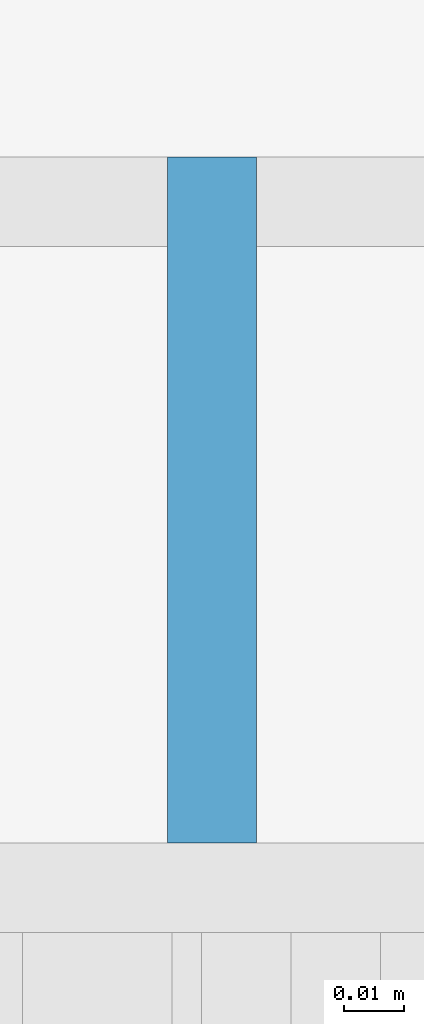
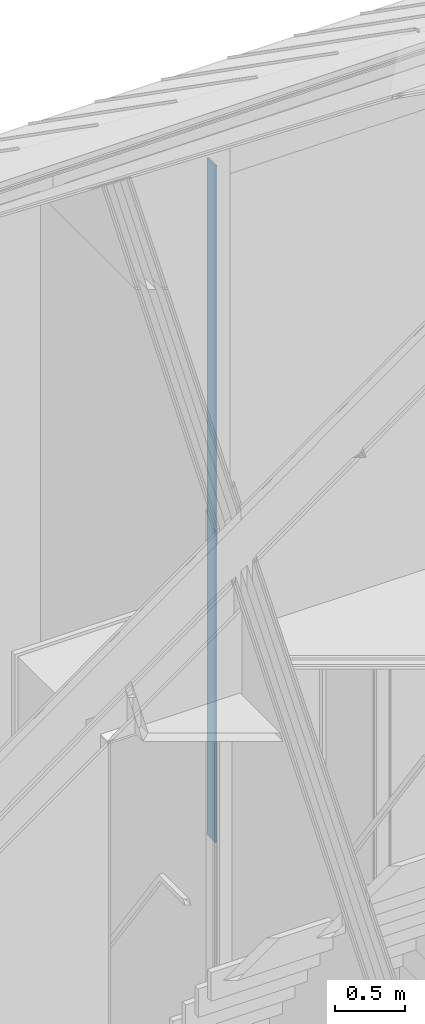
# One storey, part 288 of 583: 1 slab.
"""IFC2X3 building model written with IfcOpenShell, lengths in metres."""

from ifc_helpers import new_model, entity, si_unit, converted_unit, derived_unit, money_unit, direction, frame, origin_with_axes, place, context, subcontext, project, spatial, faceted_brep, material, type_object, element, save


model = new_model("IFC2X3")

# Units and contexts
model_context = context("Model", 3, precision=1e-05, world=origin_with_axes(), true_north=direction((0.0, 1.0)))
body_context = subcontext(model_context, "Body", "Model", "MODEL_VIEW", scale=1.0)
ifc_project = project(units=[si_unit("LENGTHUNIT", "METRE"), si_unit("AREAUNIT", "SQUARE_METRE"), si_unit("VOLUMEUNIT", "CUBIC_METRE"), si_unit("ABSORBEDDOSEUNIT", "GRAY"), si_unit("AMOUNTOFSUBSTANCEUNIT", "MOLE"), si_unit("DOSEEQUIVALENTUNIT", "SIEVERT"), si_unit("ELECTRICCAPACITANCEUNIT", "FARAD"), si_unit("ELECTRICCHARGEUNIT", "COULOMB"), si_unit("ELECTRICCONDUCTANCEUNIT", "SIEMENS"), si_unit("ELECTRICCURRENTUNIT", "AMPERE"), si_unit("ELECTRICRESISTANCEUNIT", "OHM"), si_unit("ELECTRICVOLTAGEUNIT", "VOLT"), si_unit("ENERGYUNIT", "JOULE"), si_unit("FORCEUNIT", "NEWTON"), si_unit("FREQUENCYUNIT", "HERTZ"), si_unit("ILLUMINANCEUNIT", "LUX"), si_unit("INDUCTANCEUNIT", "HENRY"), si_unit("LUMINOUSFLUXUNIT", "LUMEN"), si_unit("LUMINOUSINTENSITYUNIT", "CANDELA"), si_unit("MAGNETICFLUXDENSITYUNIT", "TESLA"), si_unit("MAGNETICFLUXUNIT", "WEBER"), si_unit("MASSUNIT", "GRAM"), converted_unit("PLANEANGLEUNIT", "degree", entity("IfcReal", 0.0174532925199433), si_unit("PLANEANGLEUNIT", "RADIAN"), dimensions=[0, 0, 0, 0, 0, 0, 0]), si_unit("POWERUNIT", "WATT"), si_unit("PRESSUREUNIT", "PASCAL"), si_unit("RADIOACTIVITYUNIT", "BECQUEREL"), si_unit("SOLIDANGLEUNIT", "STERADIAN"), si_unit("THERMODYNAMICTEMPERATUREUNIT", "KELVIN"), si_unit("TIMEUNIT", "SECOND"), derived_unit("ACCELERATIONUNIT", [(si_unit("LENGTHUNIT", "METRE"), 1), (si_unit("TIMEUNIT", "SECOND"), -2)]), derived_unit("ANGULARVELOCITYUNIT", [(converted_unit("PLANEANGLEUNIT", "degree", entity("IfcReal", 0.0174532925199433), si_unit("PLANEANGLEUNIT", "RADIAN"), dimensions=[0, 0, 0, 0, 0, 0, 0]), 1), (si_unit("TIMEUNIT", "SECOND"), -1)]), derived_unit("CURVATUREUNIT", [(converted_unit("PLANEANGLEUNIT", "degree", entity("IfcReal", 0.0174532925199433), si_unit("PLANEANGLEUNIT", "RADIAN"), dimensions=[0, 0, 0, 0, 0, 0, 0]), 1), (si_unit("LENGTHUNIT", "METRE"), -1)]), derived_unit("DYNAMICVISCOSITYUNIT", [(si_unit("PRESSUREUNIT", "PASCAL"), 1), (si_unit("TIMEUNIT", "SECOND"), 1)]), derived_unit("HEATFLUXDENSITYUNIT", [(si_unit("POWERUNIT", "WATT"), 1), (si_unit("LENGTHUNIT", "METRE"), -2)]), derived_unit("HEATINGVALUEUNIT", [(si_unit("ENERGYUNIT", "JOULE"), 1), (si_unit("MASSUNIT", "GRAM"), -1)]), derived_unit("INTEGERCOUNTRATEUNIT", [(si_unit("TIMEUNIT", "SECOND"), -1)]), derived_unit("IONCONCENTRATIONUNIT", [(si_unit("MASSUNIT", "GRAM"), 1), (si_unit("VOLUMEUNIT", "CUBIC_METRE"), -1)]), derived_unit("ISOTHERMALMOISTURECAPACITYUNIT", [(si_unit("VOLUMEUNIT", "CUBIC_METRE"), 1), (si_unit("MASSUNIT", "GRAM"), -1)]), derived_unit("KINEMATICVISCOSITYUNIT", [(si_unit("AREAUNIT", "SQUARE_METRE"), 1), (si_unit("TIMEUNIT", "SECOND"), -1)]), derived_unit("LINEARFORCEUNIT", [(si_unit("FORCEUNIT", "NEWTON"), 1), (si_unit("LENGTHUNIT", "METRE"), -1)]), derived_unit("LINEARMOMENTUNIT", [(si_unit("FORCEUNIT", "NEWTON"), 1), (si_unit("LENGTHUNIT", "METRE"), -1)]), derived_unit("LINEARSTIFFNESSUNIT", [(si_unit("FORCEUNIT", "NEWTON"), 1), (si_unit("LENGTHUNIT", "METRE"), -1)]), derived_unit("LINEARVELOCITYUNIT", [(si_unit("LENGTHUNIT", "METRE"), 1), (si_unit("TIMEUNIT", "SECOND"), -1)]), derived_unit("LUMINOUSINTENSITYDISTRIBUTIONUNIT", [(si_unit("LUMINOUSINTENSITYUNIT", "CANDELA"), 1), (si_unit("LUMINOUSFLUXUNIT", "LUMEN"), -1)]), derived_unit("MASSDENSITYUNIT", [(si_unit("MASSUNIT", "GRAM"), 1), (si_unit("VOLUMEUNIT", "CUBIC_METRE"), -1)]), derived_unit("MASSFLOWRATEUNIT", [(si_unit("MASSUNIT", "GRAM"), 1), (si_unit("TIMEUNIT", "SECOND"), -1)]), derived_unit("MASSPERLENGTHUNIT", [(si_unit("MASSUNIT", "GRAM"), 1), (si_unit("LENGTHUNIT", "METRE"), -1)]), derived_unit("MODULUSOFELASTICITYUNIT", [(si_unit("FORCEUNIT", "NEWTON"), 1), (si_unit("AREAUNIT", "SQUARE_METRE"), -1)]), derived_unit("MODULUSOFLINEARSUBGRADEREACTIONUNIT", [(si_unit("FORCEUNIT", "NEWTON"), 1), (si_unit("LENGTHUNIT", "METRE"), -2)]), derived_unit("MODULUSOFROTATIONALSUBGRADEREACTIONUNIT", [(si_unit("FORCEUNIT", "NEWTON"), 1), (si_unit("LENGTHUNIT", "METRE"), 1)]), derived_unit("MODULUSOFSUBGRADEREACTIONUNIT", [(si_unit("FORCEUNIT", "NEWTON"), 1), (si_unit("VOLUMEUNIT", "CUBIC_METRE"), -1)]), derived_unit("MOISTUREDIFFUSIVITYUNIT", [(si_unit("VOLUMEUNIT", "CUBIC_METRE"), 1), (si_unit("TIMEUNIT", "SECOND"), -1)]), derived_unit("MOLECULARWEIGHTUNIT", [(si_unit("MASSUNIT", "GRAM"), 1), (si_unit("AMOUNTOFSUBSTANCEUNIT", "MOLE"), -1)]), derived_unit("PLANARFORCEUNIT", [(si_unit("FORCEUNIT", "NEWTON"), 1), (si_unit("LENGTHUNIT", "METRE"), -2)]), derived_unit("ROTATIONALFREQUENCYUNIT", [(si_unit("TIMEUNIT", "SECOND"), -1)]), derived_unit("ROTATIONALMASSUNIT", [(si_unit("MASSUNIT", "GRAM"), 1), (si_unit("LENGTHUNIT", "METRE"), 2)]), derived_unit("ROTATIONALSTIFFNESSUNIT", [(si_unit("FORCEUNIT", "NEWTON"), 1), (si_unit("LENGTHUNIT", "METRE"), 1), (converted_unit("PLANEANGLEUNIT", "degree", entity("IfcReal", 0.0174532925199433), si_unit("PLANEANGLEUNIT", "RADIAN"), dimensions=[0, 0, 0, 0, 0, 0, 0]), -1)]), derived_unit("SECTIONAREAINTEGRALUNIT", [(si_unit("LENGTHUNIT", "METRE"), 5)]), derived_unit("SECTIONMODULUSUNIT", [(si_unit("LENGTHUNIT", "METRE"), 3)]), derived_unit("SHEARMODULUSUNIT", [(si_unit("FORCEUNIT", "NEWTON"), 1), (si_unit("AREAUNIT", "SQUARE_METRE"), -1)]), derived_unit("SOUNDPOWERUNIT", [(si_unit("ENERGYUNIT", "JOULE"), 1), (si_unit("TIMEUNIT", "SECOND"), -1)]), derived_unit("SPECIFICHEATCAPACITYUNIT", [(si_unit("FORCEUNIT", "NEWTON"), 1), (si_unit("MASSUNIT", "GRAM"), -1), (si_unit("THERMODYNAMICTEMPERATUREUNIT", "KELVIN"), -1)]), derived_unit("TEMPERATUREGRADIENTUNIT", [(si_unit("THERMODYNAMICTEMPERATUREUNIT", "KELVIN"), 1), (si_unit("LENGTHUNIT", "METRE"), -1)]), derived_unit("THERMALADMITTANCEUNIT", [(si_unit("POWERUNIT", "WATT"), 1), (si_unit("AREAUNIT", "SQUARE_METRE"), -1), (si_unit("THERMODYNAMICTEMPERATUREUNIT", "KELVIN"), -1)]), derived_unit("THERMALCONDUCTANCEUNIT", [(si_unit("POWERUNIT", "WATT"), 1), (si_unit("LENGTHUNIT", "METRE"), -1), (si_unit("THERMODYNAMICTEMPERATUREUNIT", "KELVIN"), -1)]), derived_unit("THERMALEXPANSIONCOEFFICIENTUNIT", [(si_unit("THERMODYNAMICTEMPERATUREUNIT", "KELVIN"), -1)]), derived_unit("THERMALRESISTANCEUNIT", [(si_unit("AREAUNIT", "SQUARE_METRE"), 1), (si_unit("POWERUNIT", "WATT"), -1)]), derived_unit("THERMALTRANSMITTANCEUNIT", [(si_unit("POWERUNIT", "WATT"), 1), (si_unit("AREAUNIT", "SQUARE_METRE"), -1), (si_unit("THERMODYNAMICTEMPERATUREUNIT", "KELVIN"), -1)]), derived_unit("TORQUEUNIT", [(si_unit("FORCEUNIT", "NEWTON"), 1), (si_unit("LENGTHUNIT", "METRE"), 1)]), derived_unit("VAPORPERMEABILITYUNIT", [(si_unit("MASSUNIT", "GRAM"), 1), (si_unit("TIMEUNIT", "SECOND"), -1)]), derived_unit("VOLUMETRICFLOWRATEUNIT", [(si_unit("VOLUMEUNIT", "CUBIC_METRE"), 1), (si_unit("TIMEUNIT", "SECOND"), -1)]), derived_unit("WARPINGCONSTANTUNIT", [(si_unit("LENGTHUNIT", "METRE"), 6)]), derived_unit("WARPINGMOMENTUNIT", [(si_unit("FORCEUNIT", "NEWTON"), 1), (si_unit("LENGTHUNIT", "METRE"), 2)]), money_unit("GBP")], contexts=[model_context])

# Site, building, storey
site_placement = place(None, origin_with_axes())
site = spatial("IfcSite", under=ifc_project, at=site_placement, Name="Site", CompositionType="ELEMENT")
building_placement = place(site_placement, origin_with_axes())
building = spatial("IfcBuilding", under=site, at=building_placement, Name="Building01", CompositionType="ELEMENT")
storey_placement = place(building_placement, frame((0.0, 0.0, 20.78), z_axis=(0.0, 0.0, 1.0), x_axis=(1.0, 0.0, 0.0)))
storey = spatial("IfcBuildingStorey", under=building, at=storey_placement, Name="RL", CompositionType="ELEMENT", Elevation=20.78)

# Slab
ifc_material = material(Name="A_BSUK_CeilingSoffitFinishes_Suspended")
slab_type = type_object("IfcSlabType", Name="A-FloorsSlabs A_BSUK_Slabs", PredefinedType="FLOOR")
slab_placement = place(storey_placement, frame((0.0, 0.0, -20.78), z_axis=(0.0, 0.0, 1.0), x_axis=(1.0, 0.0, 0.0)))
element("IfcSlab", 1, at=slab_placement, inside=storey, type_object=slab_type, material=ifc_material, Name="A-FloorsSlabs A_BSUK_Slabs", ObjectType="CompoundSlabLeaf", context=body_context, shape_type="Brep", body=[
    faceted_brep([(8.7966, 20.195, 23.9), (8.8116, 20.195, 23.9), (8.8116, 20.31, 23.9), (8.7966, 20.31, 23.9), (8.7966, 20.195, 18.0), (8.8116, 20.195, 18.0), (8.7966, 20.31, 18.0), (8.8116, 20.31, 18.0)], [[[0, 1, 2, 3]], [[4, 5, 1, 0]], [[6, 7, 5, 4]], [[3, 2, 7, 6]], [[1, 5, 7, 2]], [[3, 6, 4, 0]]]),
])

save(model, "model.ifc")
